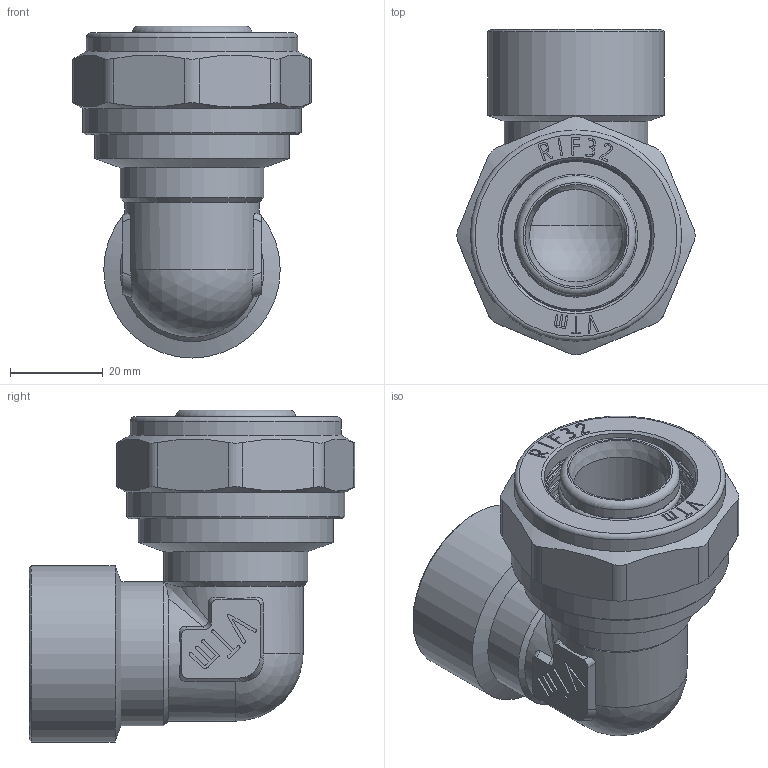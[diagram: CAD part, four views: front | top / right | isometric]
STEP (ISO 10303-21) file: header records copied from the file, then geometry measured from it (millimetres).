
FILE_DESCRIPTION(('STEP AP203'), '1');
FILE_NAME('VTm.352.N.003206', '', ('UNSPECIFIED'), ('UNSPECIFIED'), 'C3D Converter', 'C3D Toolkit', '');
FILE_SCHEMA(('CONFIG_CONTROL_DESIGN'));
Length unit declared in the file: millimetre
Products named in the file (1): ВР.302635.105.000 СБ
Bounding box: 51.3 x 70.15 x 71.5 mm (x, y, z)
Volume: 52193.5 mm3; surface area: 29779.4 mm2
Topology: 1 solids, 1 shells, 467 faces, 1282 edges, 843 vertices
Faces by surface type: extrusion 207, plane 153, cylinder 55, torus 29, cone 19, bspline 2, sphere 2
Full cylindrical faces by diameter (mm): 20 x1, 22.8 x4, 24.5 x1, 25.8 x5, 26 x1, 30.292 x1, 31 x2, 32.1 x1, 32.2 x1, 32.7 x1, 38 x1, 40.376 x1, 42 x1, 45.5 x1, 47 x1
Entity records: 17376 total; most frequent: CARTESIAN_POINT 6727, ORIENTED_EDGE 2454, DIRECTION 1512, EDGE_CURVE 1227, VERTEX_POINT 842, VECTOR 772, B_SPLINE_CURVE_WITH_KNOTS 722, LINE 565
